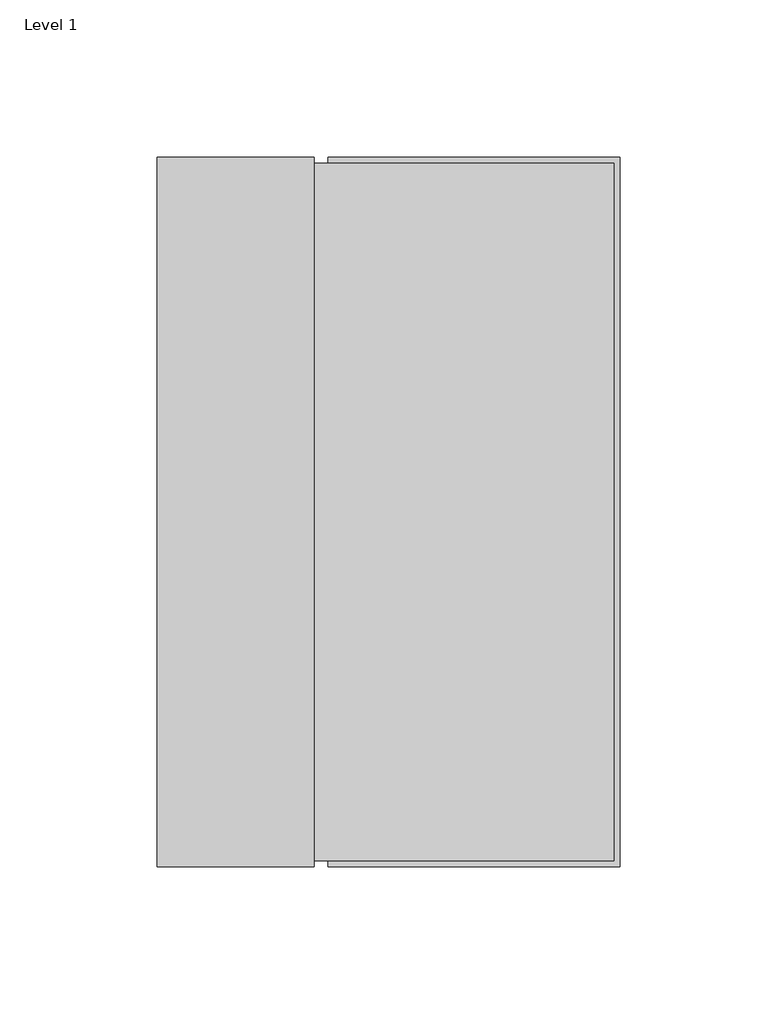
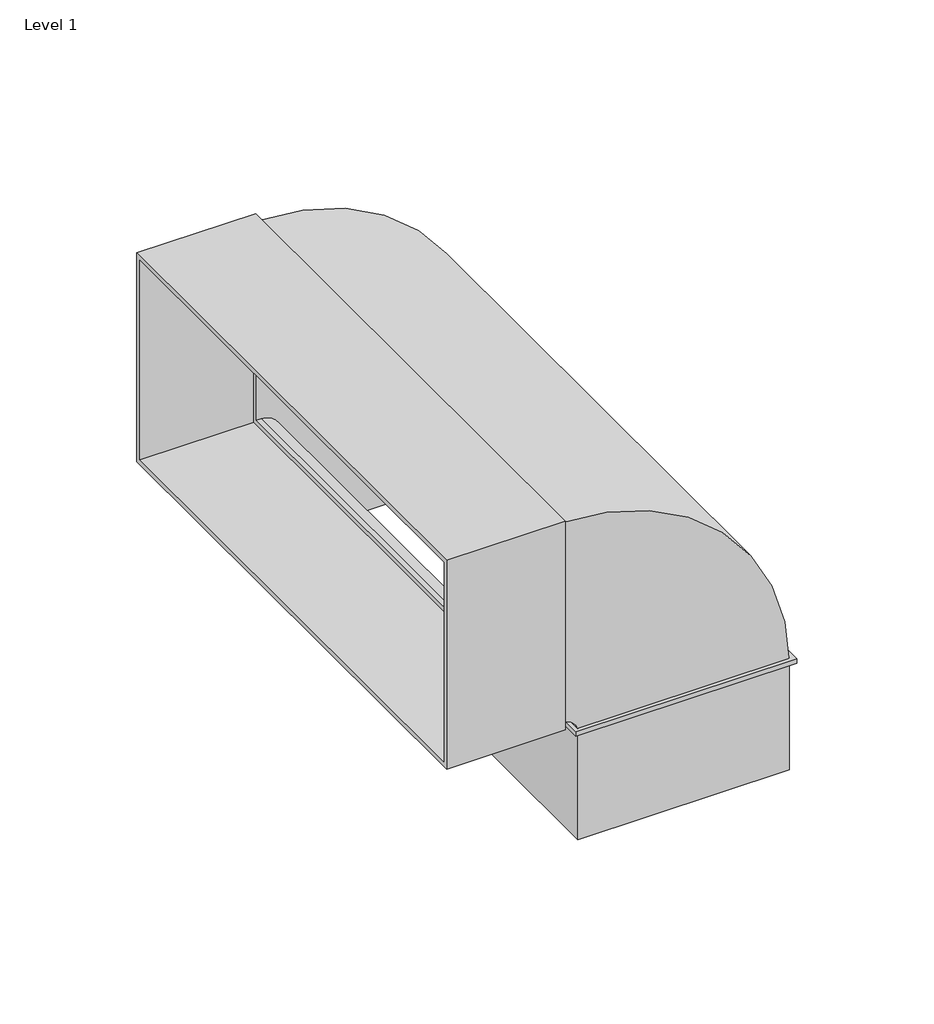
# One storey: 1 proxy.
"""IFC4 building model written with IfcOpenShell, lengths in millimetres."""

from ifc_helpers import new_model, si_unit, origin, place, context, project, spatial, transform, mapped, element, save
from components import specialty_equipment_c3e30616

model = new_model("IFC4")

# Units and contexts
model_context = context("Model", 3, world=origin())
ifc_project = project(units=[si_unit("LENGTHUNIT", "METRE", prefix="MILLI")], contexts=[model_context])

# Site, building, storey
site = spatial("IfcSite", under=ifc_project)
building = spatial("IfcBuilding", under=site)
storey = spatial("IfcBuildingStorey", under=building, Name="Level 1", Elevation=0.0)

# Proxy
placement = place(None, origin())
specialty_equipment_shape = specialty_equipment_c3e30616(model_context)
element("IfcBuildingElementProxy", 1, Name="10811470_D_DFK-BVK90 : 28996396_D_10811470_DFK-BVK90", ObjectType="10811470_D_DFK-BVK90 : 28996396_D_10811470_DFK-BVK90", at=placement, inside=storey, context=model_context, shape_type="MappedRepresentation", body=[
    mapped(specialty_equipment_shape, transform((0.0, 0.0, 0.0), x_axis=(1.0, 0.0, 0.0), y_axis=(0.0, 1.0, 0.0), z_axis=(0.0, 0.0, 1.0))),
])

save(model, "model.ifc")
